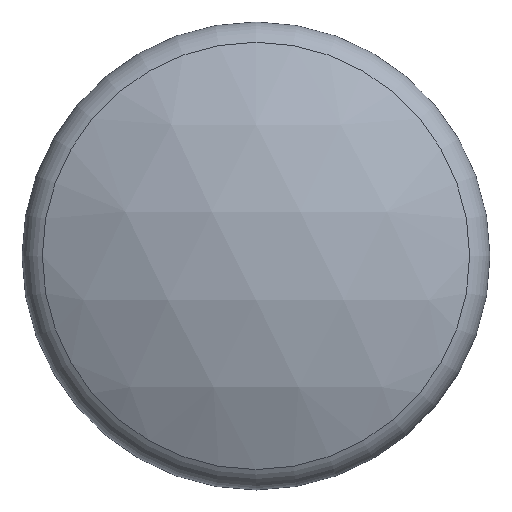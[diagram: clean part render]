
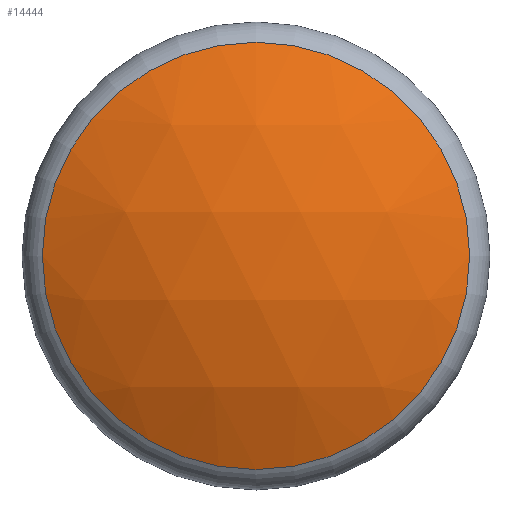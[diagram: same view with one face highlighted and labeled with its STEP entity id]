
A CAD part, top view. The second image highlights one B-rep face of the part: STEP entity #14444.
In plain terms, the highlighted spherical face has radius 1000 mm.
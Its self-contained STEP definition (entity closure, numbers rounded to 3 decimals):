
#14=SPHERICAL_SURFACE('',#15612,1000.);
#2510=FACE_OUTER_BOUND('',#3368,.T.);
#3368=EDGE_LOOP('',(#12820,#12821,#12822));
#5190=CIRCLE('',#15608,456.522);
#5191=CIRCLE('',#15609,456.522);
#5193=CIRCLE('',#15611,456.522);
#6564=VERTEX_POINT('',#34130);
#6565=VERTEX_POINT('',#34131);
#6566=VERTEX_POINT('',#34133);
#8649=EDGE_CURVE('',#6564,#6565,#5190,.T.);
#8650=EDGE_CURVE('',#6566,#6564,#5191,.T.);
#8652=EDGE_CURVE('',#6565,#6566,#5193,.T.);
#12820=ORIENTED_EDGE('',*,*,#8649,.T.);
#12821=ORIENTED_EDGE('',*,*,#8652,.T.);
#12822=ORIENTED_EDGE('',*,*,#8650,.T.);
#14444=ADVANCED_FACE('',(#2510),#14,.T.);
#15608=AXIS2_PLACEMENT_3D('',#34132,#18571,#18572);
#15609=AXIS2_PLACEMENT_3D('',#34134,#18573,#18574);
#15611=AXIS2_PLACEMENT_3D('',#34136,#18577,#18578);
#15612=AXIS2_PLACEMENT_3D('',#34137,#18579,#18580);
#18571=DIRECTION('center_axis',(0.,0.,
1.));
#18572=DIRECTION('ref_axis',(-1.,0.,0.));
#18573=DIRECTION('center_axis',(0.,0.,
1.));
#18574=DIRECTION('ref_axis',(-1.,0.,0.));
#18577=DIRECTION('center_axis',(0.,0.,
1.));
#18578=DIRECTION('ref_axis',(-1.,0.,0.));
#18579=DIRECTION('center_axis',(0.,-1.,0.));
#18580=DIRECTION('ref_axis',(1.,0.,0.));
#34130=CARTESIAN_POINT('',(447.411,592.82,895.908));
#34131=CARTESIAN_POINT('',(1360.454,592.82,895.908));
#34132=CARTESIAN_POINT('Origin',(903.932,592.82,895.908));
#34133=CARTESIAN_POINT('',(903.932,1049.341,895.908));
#34134=CARTESIAN_POINT('Origin',(903.932,592.82,895.908));
#34136=CARTESIAN_POINT('Origin',(903.932,592.82,895.908));
#34137=CARTESIAN_POINT('Origin',(903.932,592.82,6.196));
